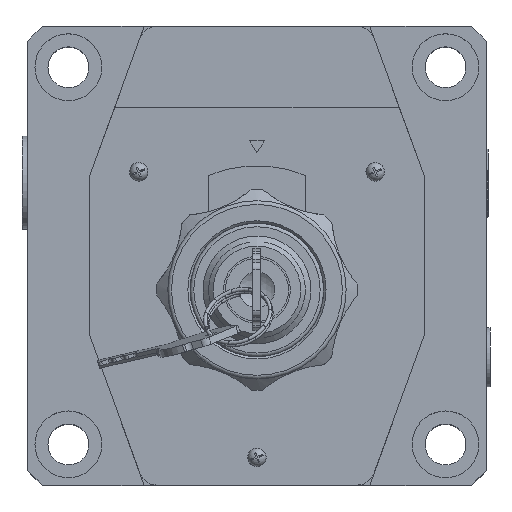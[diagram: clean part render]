
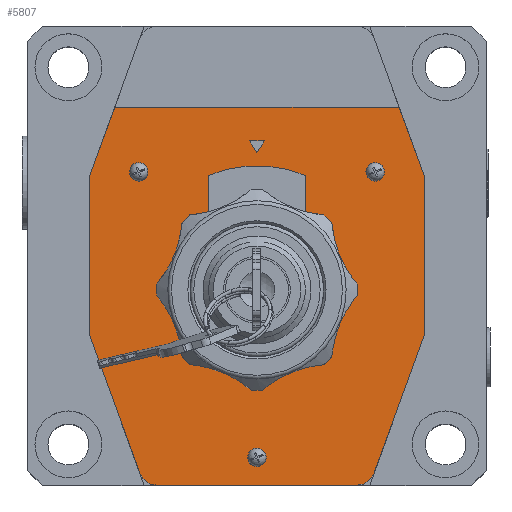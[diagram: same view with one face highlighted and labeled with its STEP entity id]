
A CAD part, top view. The second image highlights one B-rep face of the part: STEP entity #5807.
In plain terms, the highlighted planar face has unit normal (0, 0, 1).
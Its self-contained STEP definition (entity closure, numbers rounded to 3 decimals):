
#1972=LINE('',#42283,#2963);
#1985=LINE('',#42311,#2976);
#1986=LINE('',#42319,#2977);
#1987=LINE('',#42324,#2978);
#1988=LINE('',#42327,#2979);
#1989=LINE('',#42328,#2980);
#1990=LINE('',#42330,#2981);
#1991=LINE('',#42334,#2982);
#1992=LINE('',#42338,#2983);
#1993=LINE('',#42340,#2984);
#2963=VECTOR('',#21897,1.);
#2976=VECTOR('',#21914,1.);
#2977=VECTOR('',#21923,1.);
#2978=VECTOR('',#21926,1.);
#2979=VECTOR('',#21929,1.);
#2980=VECTOR('',#21930,1.);
#2981=VECTOR('',#21931,1.);
#2982=VECTOR('',#21934,1.);
#2983=VECTOR('',#21937,1.);
#2984=VECTOR('',#21938,1.);
#4408=PLANE('',#18859);
#5807=ADVANCED_FACE('',(#6624,#6625,#6626,#6627,#6628),#4408,.T.);
#6624=FACE_BOUND('',#7299,.T.);
#6625=FACE_BOUND('',#7300,.T.);
#6626=FACE_BOUND('',#7301,.T.);
#6627=FACE_BOUND('',#7302,.T.);
#6628=FACE_BOUND('',#7303,.T.);
#7299=EDGE_LOOP('',(#9989));
#7300=EDGE_LOOP('',(#9990));
#7301=EDGE_LOOP('',(#9991));
#7302=EDGE_LOOP('',(#9992,#9993,#9994,#9995));
#7303=EDGE_LOOP('',(#9996,#9997,#9998,#9999,#10000,#10001,#10002,#10003,
#10004,#10005));
#9989=ORIENTED_EDGE('',*,*,#15727,.F.);
#9990=ORIENTED_EDGE('',*,*,#15728,.F.);
#9991=ORIENTED_EDGE('',*,*,#15729,.F.);
#9992=ORIENTED_EDGE('',*,*,#15730,.T.);
#9993=ORIENTED_EDGE('',*,*,#15731,.T.);
#9994=ORIENTED_EDGE('',*,*,#15732,.T.);
#9995=ORIENTED_EDGE('',*,*,#15733,.T.);
#9996=ORIENTED_EDGE('',*,*,#15713,.T.);
#9997=ORIENTED_EDGE('',*,*,#15734,.T.);
#9998=ORIENTED_EDGE('',*,*,#15726,.T.);
#9999=ORIENTED_EDGE('',*,*,#15735,.T.);
#10000=ORIENTED_EDGE('',*,*,#15736,.T.);
#10001=ORIENTED_EDGE('',*,*,#15737,.T.);
#10002=ORIENTED_EDGE('',*,*,#15738,.T.);
#10003=ORIENTED_EDGE('',*,*,#15739,.T.);
#10004=ORIENTED_EDGE('',*,*,#15740,.T.);
#10005=ORIENTED_EDGE('',*,*,#15741,.T.);
#13674=VERTEX_POINT('',#42282);
#13675=VERTEX_POINT('',#42284);
#13683=VERTEX_POINT('',#42302);
#13687=VERTEX_POINT('',#42310);
#13688=VERTEX_POINT('',#42314);
#13689=VERTEX_POINT('',#42316);
#13690=VERTEX_POINT('',#42318);
#13691=VERTEX_POINT('',#42320);
#13692=VERTEX_POINT('',#42321);
#13693=VERTEX_POINT('',#42323);
#13694=VERTEX_POINT('',#42325);
#13695=VERTEX_POINT('',#42329);
#13696=VERTEX_POINT('',#42331);
#13697=VERTEX_POINT('',#42333);
#13698=VERTEX_POINT('',#42335);
#13699=VERTEX_POINT('',#42337);
#13700=VERTEX_POINT('',#42339);
#15713=EDGE_CURVE('',#13675,#13674,#1972,.T.);
#15726=EDGE_CURVE('',#13683,#13687,#1985,.T.);
#15727=EDGE_CURVE('',#13688,#13688,#17568,.T.);
#15728=EDGE_CURVE('',#13689,#13689,#17569,.T.);
#15729=EDGE_CURVE('',#13690,#13690,#17570,.T.);
#15730=EDGE_CURVE('',#13691,#13692,#1986,.T.);
#15731=EDGE_CURVE('',#13692,#13693,#17571,.T.);
#15732=EDGE_CURVE('',#13693,#13694,#1987,.T.);
#15733=EDGE_CURVE('',#13694,#13691,#17572,.T.);
#15734=EDGE_CURVE('',#13674,#13683,#1988,.T.);
#15735=EDGE_CURVE('',#13687,#13695,#1989,.T.);
#15736=EDGE_CURVE('',#13695,#13696,#1990,.T.);
#15737=EDGE_CURVE('',#13696,#13697,#17573,.T.);
#15738=EDGE_CURVE('',#13697,#13698,#1991,.T.);
#15739=EDGE_CURVE('',#13698,#13699,#17574,.T.);
#15740=EDGE_CURVE('',#13699,#13700,#1992,.T.);
#15741=EDGE_CURVE('',#13700,#13675,#1993,.T.);
#17568=CIRCLE('',#18852,1.6);
#17569=CIRCLE('',#18853,1.6);
#17570=CIRCLE('',#18854,1.6);
#17571=CIRCLE('',#18855,33.5);
#17572=CIRCLE('',#18856,20.);
#17573=CIRCLE('',#18857,5.);
#17574=CIRCLE('',#18858,5.);
#18852=AXIS2_PLACEMENT_3D('',#42313,#21917,#21918);
#18853=AXIS2_PLACEMENT_3D('',#42315,#21919,#21920);
#18854=AXIS2_PLACEMENT_3D('',#42317,#21921,#21922);
#18855=AXIS2_PLACEMENT_3D('',#42322,#21924,#21925);
#18856=AXIS2_PLACEMENT_3D('',#42326,#21927,#21928);
#18857=AXIS2_PLACEMENT_3D('',#42332,#21932,#21933);
#18858=AXIS2_PLACEMENT_3D('',#42336,#21935,#21936);
#18859=AXIS2_PLACEMENT_3D('',#42341,#21939,#21940);
#21897=DIRECTION('',(-0.342,0.94,0.));
#21914=DIRECTION('',(-0.342,-0.94,0.));
#21917=DIRECTION('',(0.,0.,1.));
#21918=DIRECTION('',(1.,0.,0.));
#21919=DIRECTION('',(0.,0.,1.));
#21920=DIRECTION('',(1.,0.,0.));
#21921=DIRECTION('',(0.,0.,1.));
#21922=DIRECTION('',(1.,0.,0.));
#21923=DIRECTION('',(0.,1.,0.));
#21924=DIRECTION('',(0.,0.,-1.));
#21925=DIRECTION('',(1.,0.,0.));
#21926=DIRECTION('',(0.,-1.,0.));
#21927=DIRECTION('',(0.,0.,-1.));
#21928=DIRECTION('',(1.,0.,0.));
#21929=DIRECTION('',(-1.,0.,0.));
#21930=DIRECTION('',(0.,-1.,0.));
#21931=DIRECTION('',(0.342,-0.94,0.));
#21932=DIRECTION('',(0.,0.,1.));
#21933=DIRECTION('',(1.,0.,0.));
#21934=DIRECTION('',(1.,0.,0.));
#21935=DIRECTION('',(0.,0.,1.));
#21936=DIRECTION('',(1.,0.,0.));
#21937=DIRECTION('',(0.342,0.94,0.));
#21938=DIRECTION('',(0.,1.,0.));
#21939=DIRECTION('',(0.,0.,1.));
#21940=DIRECTION('',(-1.,0.,0.));
#42282=CARTESIAN_POINT('',(72.596,141.316,7.9));
#42283=CARTESIAN_POINT('',(79.322,122.836,7.9));
#42284=CARTESIAN_POINT('',(79.322,122.836,7.9));
#42302=CARTESIAN_POINT('',(-3.952,141.316,7.9));
#42310=CARTESIAN_POINT('',(-10.678,122.836,7.9));
#42311=CARTESIAN_POINT('',(2.775,159.796,7.9));
#42313=CARTESIAN_POINT('',(2.502,123.906,7.9));
#42314=CARTESIAN_POINT('',(4.102,123.906,7.9));
#42315=CARTESIAN_POINT('',(34.322,47.086,7.9));
#42316=CARTESIAN_POINT('',(35.922,47.086,7.9));
#42317=CARTESIAN_POINT('',(66.142,123.906,7.9));
#42318=CARTESIAN_POINT('',(67.742,123.906,7.9));
#42319=CARTESIAN_POINT('',(21.322,107.285,7.9));
#42320=CARTESIAN_POINT('',(21.322,107.285,7.9));
#42321=CARTESIAN_POINT('',(21.322,122.961,7.9));
#42322=CARTESIAN_POINT('',(34.322,92.086,7.9));
#42323=CARTESIAN_POINT('',(47.322,122.961,7.9));
#42324=CARTESIAN_POINT('',(47.322,122.961,7.9));
#42325=CARTESIAN_POINT('',(47.322,107.285,7.9));
#42326=CARTESIAN_POINT('',(34.322,92.086,7.9));
#42327=CARTESIAN_POINT('',(72.596,141.316,7.9));
#42328=CARTESIAN_POINT('',(-10.678,122.836,7.9));
#42329=CARTESIAN_POINT('',(-10.678,79.836,7.9));
#42330=CARTESIAN_POINT('',(-10.678,79.836,7.9));
#42331=CARTESIAN_POINT('',(2.775,42.876,7.9));
#42332=CARTESIAN_POINT('',(7.473,44.586,7.9));
#42333=CARTESIAN_POINT('',(7.473,39.586,7.9));
#42334=CARTESIAN_POINT('',(7.473,39.586,7.9));
#42335=CARTESIAN_POINT('',(61.171,39.586,7.9));
#42336=CARTESIAN_POINT('',(61.171,44.586,7.9));
#42337=CARTESIAN_POINT('',(65.87,42.876,7.9));
#42338=CARTESIAN_POINT('',(65.87,42.876,7.9));
#42339=CARTESIAN_POINT('',(79.322,79.836,7.9));
#42340=CARTESIAN_POINT('',(79.322,79.836,7.9));
#42341=CARTESIAN_POINT('',(7.473,44.586,7.9));
